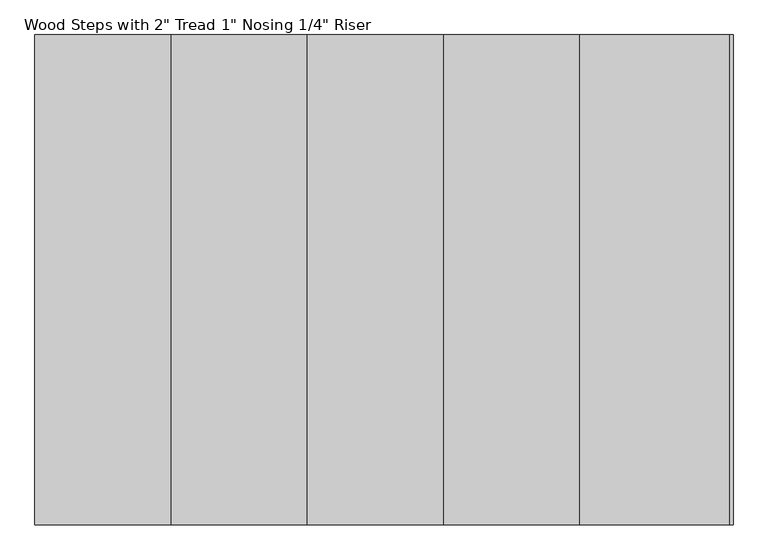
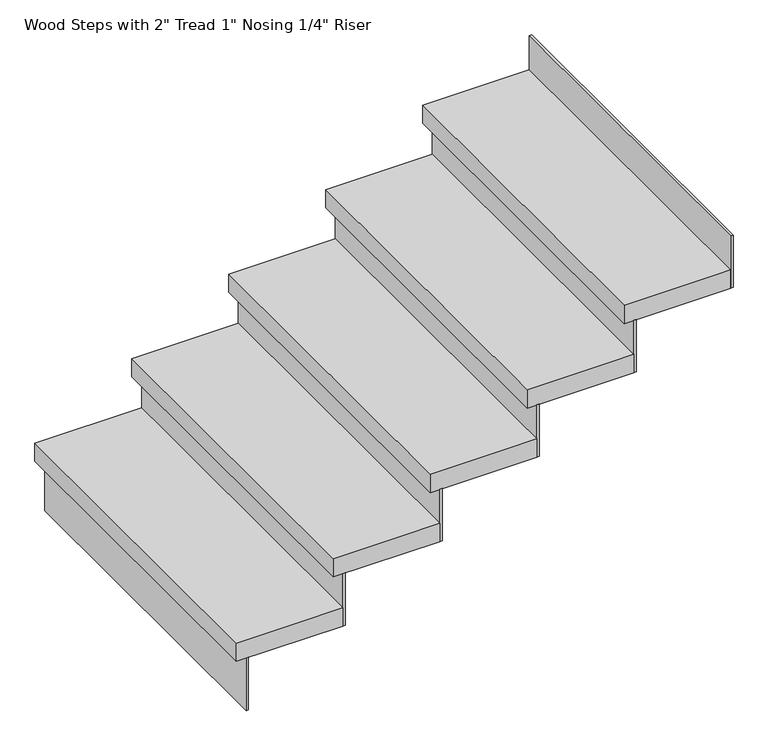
"""IFC4 building model written with IfcOpenShell, lengths in millimetres: stair flight geometry."""

from ifc_helpers import new_model, si_unit, frame, origin, place, context, project, spatial, polyline, outline, extrude, source, transform, mapped, element, save


def stair_flight_c5fed0c8(model_context):
    return source(origin(), model_context, "Body", "SweptSolid", [
        extrude(outline(polyline([(-31217.12137, 31644.2177722), (-31223.47137, 31644.2177722), (-31223.47137, 32558.6177722), (-31217.12137, 32558.6177722), (-31217.12137, 31644.2177722)])), frame((0.0, 0.0, 2126.3428571), z_axis=(0.0, 0.0, 1.0), x_axis=(1.0, 0.0, 0.0)), (0.0, 0.0, 1.0), 145.1428571),
        extrude(outline(polyline([(-30969.47137, 32558.6177722), (-30969.47137, 31644.2177722), (-31248.87137, 31644.2177722), (-31248.87137, 32558.6177722), (-30969.47137, 32558.6177722)])), frame((0.0, 0.0, 2271.4857143), z_axis=(0.0, 0.0, 1.0), x_axis=(1.0, 0.0, 0.0)), (0.0, 0.0, 1.0), 50.8),
        extrude(outline(polyline([(-30963.12137, 31644.2177722), (-30969.47137, 31644.2177722), (-30969.47137, 32558.6177722), (-30963.12137, 32558.6177722), (-30963.12137, 31644.2177722)])), frame((0.0, 0.0, 2271.4857143), z_axis=(0.0, 0.0, 1.0), x_axis=(1.0, 0.0, 0.0)), (0.0, 0.0, 1.0), 145.1428571),
        extrude(outline(polyline([(-30715.47137, 32558.6177722), (-30715.47137, 31644.2177722), (-30994.87137, 31644.2177722), (-30994.87137, 32558.6177722), (-30715.47137, 32558.6177722)])), frame((0.0, 0.0, 2416.6285714), z_axis=(0.0, 0.0, 1.0), x_axis=(1.0, 0.0, 0.0)), (0.0, 0.0, 1.0), 50.8),
        extrude(outline(polyline([(-30709.12137, 31644.2177722), (-30715.47137, 31644.2177722), (-30715.47137, 32558.6177722), (-30709.12137, 32558.6177722), (-30709.12137, 31644.2177722)])), frame((0.0, 0.0, 2416.6285714), z_axis=(0.0, 0.0, 1.0), x_axis=(1.0, 0.0, 0.0)), (0.0, 0.0, 1.0), 145.1428571),
        extrude(outline(polyline([(-30461.47137, 32558.6177722), (-30461.47137, 31644.2177722), (-30740.87137, 31644.2177722), (-30740.87137, 32558.6177722), (-30461.47137, 32558.6177722)])), frame((0.0, 0.0, 2561.7714286), z_axis=(0.0, 0.0, 1.0), x_axis=(1.0, 0.0, 0.0)), (0.0, 0.0, 1.0), 50.8),
        extrude(outline(polyline([(-30455.12137, 31644.2177722), (-30461.47137, 31644.2177722), (-30461.47137, 32558.6177722), (-30455.12137, 32558.6177722), (-30455.12137, 31644.2177722)])), frame((0.0, 0.0, 2561.7714286), z_axis=(0.0, 0.0, 1.0), x_axis=(1.0, 0.0, 0.0)), (0.0, 0.0, 1.0), 145.1428571),
        extrude(outline(polyline([(-30207.47137, 32558.6177722), (-30207.47137, 31644.2177722), (-30486.87137, 31644.2177722), (-30486.87137, 32558.6177722), (-30207.47137, 32558.6177722)])), frame((0.0, 0.0, 2706.9142857), z_axis=(0.0, 0.0, 1.0), x_axis=(1.0, 0.0, 0.0)), (0.0, 0.0, 1.0), 50.8),
        extrude(outline(polyline([(-30201.12137, 31644.2177722), (-30207.47137, 31644.2177722), (-30207.47137, 32558.6177722), (-30201.12137, 32558.6177722), (-30201.12137, 31644.2177722)])), frame((0.0, 0.0, 2706.9142857), z_axis=(0.0, 0.0, 1.0), x_axis=(1.0, 0.0, 0.0)), (0.0, 0.0, 1.0), 145.1428571),
        extrude(outline(polyline([(-29947.12137, 31644.2177722), (-29953.47137, 31644.2177722), (-29953.47137, 32558.6177722), (-29947.12137, 32558.6177722), (-29947.12137, 31644.2177722)])), frame((0.0, 0.0, 2852.0571429), z_axis=(0.0, 0.0, 1.0), x_axis=(1.0, 0.0, 0.0)), (0.0, 0.0, 1.0), 145.1428571),
        extrude(outline(polyline([(-29953.47137, 32558.6177722), (-29953.47137, 31644.2177722), (-30232.87137, 31644.2177722), (-30232.87137, 32558.6177722), (-29953.47137, 32558.6177722)])), frame((0.0, 0.0, 2852.0571429), z_axis=(0.0, 0.0, 1.0), x_axis=(1.0, 0.0, 0.0)), (0.0, 0.0, 1.0), 50.8),
    ])


if __name__ == "__main__":
    model = new_model("IFC4")
    model_context = context("Model", 3, world=origin())
    ifc_project = project(units=[si_unit("LENGTHUNIT", "METRE", prefix="MILLI")], contexts=[model_context])
    site = spatial("IfcSite", under=ifc_project)
    building = spatial("IfcBuilding", under=site)
    placement = place(None, origin())
    stair_flight_shape = stair_flight_c5fed0c8(model_context)
    element("IfcStairFlight", 1, ObjectType="Wood Steps with 2\" Tread 1\" Nosing 1/4\" Riser", at=placement, inside=building, context=model_context, shape_type="MappedRepresentation", body=[
        mapped(stair_flight_shape, transform((0.0, 0.0, 0.0), x_axis=(1.0, 0.0, 0.0), y_axis=(0.0, 1.0, 0.0), z_axis=(0.0, 0.0, 1.0))),
    ])
    save(model, "model.ifc")
